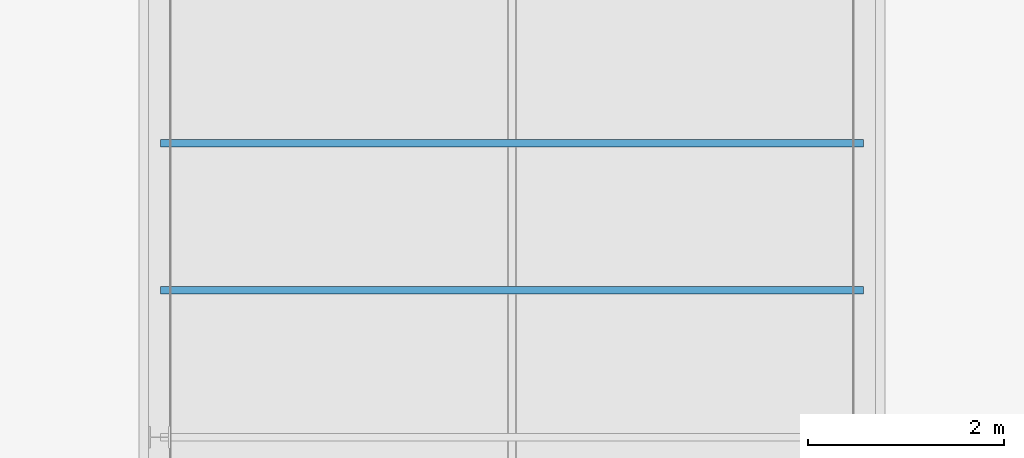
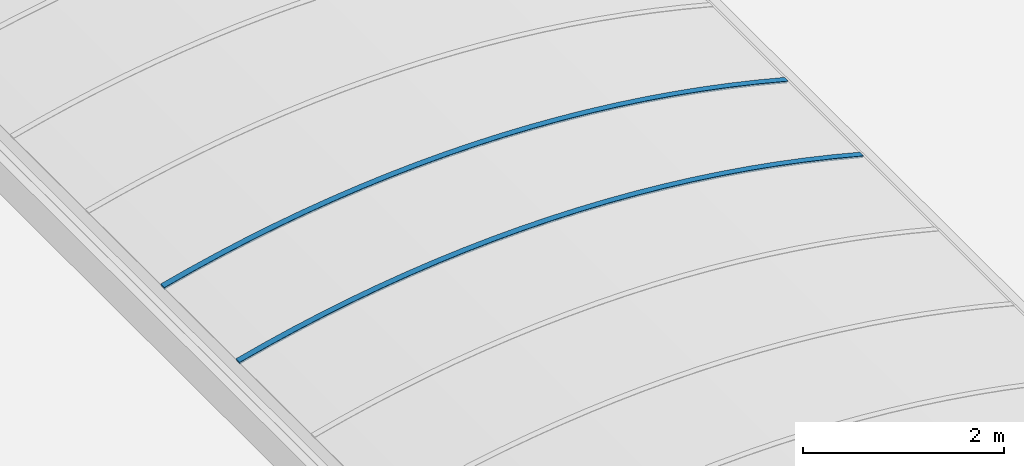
# One storey, part 35 of 81: 2 beams.
"""IFC2X3 building model written with IfcOpenShell, lengths in millimetres."""

import ifcopenshell
import ifcopenshell.guid

model = None  # the IFC model being written
_history = None  # IfcOwnerHistory: only IFC2X3 demands one
_inside = {}  # id of a spatial element -> (the spatial element, [elements in it])
_under = {}  # id of a project, library or spatial element -> (it, [spatial elements below it])
_declared = {}  # id of a project -> (the project, [libraries it declares])
_typed = {}  # id of a type object -> (the type object, [elements of that type])
_made_of = {}  # id of a material, layer set ... -> (it, [elements and type objects made of it])


def new_model(schema):
    """Start an empty IFC model of exactly this schema.

    Asked for "IFC4X3", IfcOpenShell would pick the latest addendum, in which some entities
    have other attributes; the version numbers below select the first issue.
    IFC2X3 requires an IfcOwnerHistory on every rooted entity: one is made here for all.
    """
    global model, _history
    if schema == "IFC4X3":
        model = ifcopenshell.file(schema_version=(4, 3, 0, 0))
    else:
        model = ifcopenshell.file(schema=schema)
    _inside.clear()
    _under.clear()
    _declared.clear()
    _typed.clear()
    _made_of.clear()
    _history = None
    if model.schema == "IFC2X3":
        org = make("IfcOrganization", Name="unknown")
        user = make(
            "IfcPersonAndOrganization",
            ThePerson=make("IfcPerson", FamilyName="unknown"),
            TheOrganization=org,
        )
        app = make(
            "IfcApplication",
            ApplicationDeveloper=org,
            Version="unknown",
            ApplicationFullName="unknown",
            ApplicationIdentifier="unknown",
        )
        _history = make(
            "IfcOwnerHistory",
            OwningUser=user,
            OwningApplication=app,
            ChangeAction="ADDED",
            CreationDate=0,
        )
    return model


def make(cls, **values):
    """One entity of the class cls with the attributes given. An attribute that is None is left unset."""
    return model.create_entity(
        cls, **{name: value for name, value in values.items() if value is not None}
    )


def entity(cls, *values):
    """Any entity or typed value of the class cls, its attributes in the order of the schema. None: left unset."""
    e = model.create_entity(cls)
    for i, value in enumerate(values):
        if value is not None:
            e[i] = value
    return e


def rooted(cls, **values):
    """An entity with a GlobalId (a new one), such as an element, a storey or a relation."""
    return make(cls, GlobalId=ifcopenshell.guid.new(), OwnerHistory=_history, **values)


def si_unit(unit_type, name, prefix=None):
    """IfcSIUnit, for example si_unit("LENGTHUNIT", "METRE", prefix="MILLI")."""
    return make("IfcSIUnit", UnitType=unit_type, Prefix=prefix, Name=name)


def converted_unit(unit_type, name, factor, base, dimensions=None, offset=None):
    """IfcConversionBasedUnit, such as the inch: factor (a typed value) times the base unit."""
    return make(
        "IfcConversionBasedUnit"
        if offset is None
        else "IfcConversionBasedUnitWithOffset",
        ConversionOffset=offset,
        Dimensions=None
        if dimensions is None
        else entity("IfcDimensionalExponents", *dimensions),
        UnitType=unit_type,
        Name=name,
        ConversionFactor=make(
            "IfcMeasureWithUnit", ValueComponent=factor, UnitComponent=base
        ),
    )


def derived_unit(unit_type, elements):
    """IfcDerivedUnit: a product of units, each with its exponent."""
    return make(
        "IfcDerivedUnit",
        Elements=[
            make("IfcDerivedUnitElement", Unit=unit, Exponent=power)
            for unit, power in elements
        ],
        UnitType=unit_type,
    )


def money_unit(currency):
    """IfcMonetaryUnit."""
    return make("IfcMonetaryUnit", Currency=currency)


def assignment(units):
    """IfcUnitAssignment: the units of a project."""
    return None if units is None else make("IfcUnitAssignment", Units=units)


def point(xyz):
    """IfcCartesianPoint."""
    return None if xyz is None else make("IfcCartesianPoint", Coordinates=xyz)


def direction(xyz):
    """IfcDirection."""
    return None if xyz is None else make("IfcDirection", DirectionRatios=xyz)


def frame(location, z_axis=None, x_axis=None):
    """IfcAxis2Placement3D, a coordinate frame: its origin and axes. An axis left out is left unset."""
    return make(
        "IfcAxis2Placement3D",
        Location=point(location),
        Axis=direction(z_axis),
        RefDirection=direction(x_axis),
    )


def origin_with_axes():
    """The frame at (0, 0, 0) with the z axis (0, 0, 1) and the x axis (1, 0, 0) written out."""
    return frame((0.0, 0.0, 0.0), z_axis=(0.0, 0.0, 1.0), x_axis=(1.0, 0.0, 0.0))


def place(relative_to, where):
    """IfcLocalPlacement: puts the frame where relative to a parent placement (None: the world)."""
    return make(
        "IfcLocalPlacement", PlacementRelTo=relative_to, RelativePlacement=where
    )


def context(
    kind, dimensions, precision=None, world=None, true_north=None, identifier=None
):
    """IfcGeometricRepresentationContext, for example the 3D "Model" context."""
    return make(
        "IfcGeometricRepresentationContext",
        ContextIdentifier=identifier,
        ContextType=kind,
        CoordinateSpaceDimension=dimensions,
        Precision=precision,
        WorldCoordinateSystem=world,
        TrueNorth=true_north,
    )


def subcontext(parent, identifier, kind, view, scale=None):
    """IfcGeometricRepresentationSubContext, for example "Body" below "Model"."""
    return make(
        "IfcGeometricRepresentationSubContext",
        ContextIdentifier=identifier,
        ContextType=kind,
        ParentContext=parent,
        TargetScale=scale,
        TargetView=view,
    )


def project(units=None, contexts=None):
    """IfcProject with its units and contexts."""
    return rooted(
        "IfcProject",
        Name="project",
        RepresentationContexts=contexts,
        UnitsInContext=assignment(units),
    )


def spatial(cls, under=None, at=None, **own):
    """A site, building, storey or space (cls), placed at a placement, below another one or the project."""
    s = rooted(cls, ObjectPlacement=at, **own)
    if under is not None:
        _under.setdefault(under.id(), (under, []))[1].append(s)
    return s


def faces_of(points, faces, orient=None, outer=None):
    """IfcFace entities. A face is a list of loops; a loop is a list of indices into points, from 0.

    orient and outer hold one flag for each loop. By default every Orientation is true, the
    first loop of a face is its IfcFaceOuterBound and the others are IfcFaceBound.
    """
    made = []
    for i, loops in enumerate(faces):
        bounds = []
        for j, loop in enumerate(loops):
            is_outer = j == 0 if outer is None else outer[i][j]
            bounds.append(
                make(
                    "IfcFaceOuterBound" if is_outer else "IfcFaceBound",
                    Bound=make("IfcPolyLoop", Polygon=[points[k] for k in loop]),
                    Orientation=True if orient is None else orient[i][j],
                )
            )
        made.append(make("IfcFace", Bounds=bounds))
    return made


def faceted_brep(points, faces, orient=None, outer=None, voids=None):
    """IfcFacetedBrep: a solid bounded by flat faces; with voids (closed shells), ...WithVoids."""
    shared = [point(p) for p in points]
    hull = make("IfcClosedShell", CfsFaces=faces_of(shared, faces, orient, outer))
    if voids is None:
        return make("IfcFacetedBrep", Outer=hull)
    return make(
        "IfcFacetedBrepWithVoids",
        Outer=hull,
        Voids=[
            make(cls, CfsFaces=faces_of(shared, fs, o, b)) for cls, fs, o, b in voids
        ],
    )


def shape(context_of_items, identifier, shape_type, items):
    """IfcShapeRepresentation: the items that make up one representation, for example the "Body"."""
    return make(
        "IfcShapeRepresentation",
        ContextOfItems=context_of_items,
        RepresentationIdentifier=identifier,
        RepresentationType=shape_type,
        Items=items,
    )


def material(Name=None, Category=None):
    """IfcMaterial."""
    return make("IfcMaterial", Name=Name, Category=Category)


def material_list(materials):
    """IfcMaterialList."""
    return make("IfcMaterialList", Materials=materials)


def made_of(thing, what):
    """Note that an element or type object is made of a material, layer set ...; save() writes the relation."""
    if what is not None:
        _made_of.setdefault(what.id(), (what, []))[1].append(thing)
    return thing


def type_object(cls, material=None, **own):
    """A type object (cls), such as IfcWallType, which elements share."""
    return made_of(rooted(cls, **own), material)


def element(
    cls,
    number,
    at=None,
    inside=None,
    cuts=None,
    type_object=None,
    material=None,
    context=None,
    identifier="Body",
    shape_type=None,
    held_by="IfcProductDefinitionShape",
    body=None,
    shapes=None,
    **own,
):
    """One element of the class cls, such as IfcWall. Its Tag is "e" and its number.

    at: its placement. inside: the storey or other place that contains it. cuts: it is an
    opening in that element (IfcRelVoidsElement). A single representation is given by context,
    identifier, shape_type and body (its items); several are given by shapes. held_by: the class
    of the entity that holds the representations. save() writes the other relations.
    """
    e = rooted(cls, Tag="e%d" % number, ObjectPlacement=at, **own)
    if body is not None:
        shapes = [shape(context, identifier, shape_type, body)]
    if shapes is not None:
        e.Representation = make(held_by, Representations=shapes)
    if inside is not None:
        _inside.setdefault(inside.id(), (inside, []))[1].append(e)
    if cuts is not None:
        rooted(
            "IfcRelVoidsElement", RelatingBuildingElement=cuts, RelatedOpeningElement=e
        )
    if type_object is not None:
        _typed.setdefault(type_object.id(), (type_object, []))[1].append(e)
    return made_of(e, material)


def aggregate(whole, parts):
    """IfcRelAggregates: a whole, such as a stair, and the parts it consists of."""
    return rooted("IfcRelAggregates", RelatingObject=whole, RelatedObjects=parts)


def save(model, path):
    """Write the relations noted so far, then the file.

    IfcRelAggregates (storeys below a building ...), IfcRelContainedInSpatialStructure (elements
    in a storey), IfcRelDefinesByType, IfcRelAssociatesMaterial and IfcRelDeclares: one each for
    every whole, place, type object, material and project.
    """
    for whole, parts in _under.values():
        aggregate(whole, parts)
    for where, things in _inside.values():
        rooted(
            "IfcRelContainedInSpatialStructure",
            RelatedElements=things,
            RelatingStructure=where,
        )
    for kind, things in _typed.values():
        rooted("IfcRelDefinesByType", RelatedObjects=things, RelatingType=kind)
    for what, things in _made_of.values():
        rooted("IfcRelAssociatesMaterial", RelatedObjects=things, RelatingMaterial=what)
    for by, libraries in _declared.values():
        rooted("IfcRelDeclares", RelatingContext=by, RelatedDefinitions=libraries)
    model.write(path)


model = new_model("IFC2X3")

# Units and contexts
model_context = context("Model", 3, precision=0.01, world=origin_with_axes(), true_north=direction((0.0, 1.0)))
body_context = subcontext(model_context, "Body", "Model", "MODEL_VIEW")
ifc_project = project(units=[si_unit("LENGTHUNIT", "METRE", prefix="MILLI"), si_unit("AREAUNIT", "SQUARE_METRE"), si_unit("VOLUMEUNIT", "CUBIC_METRE"), converted_unit("PLANEANGLEUNIT", "DEGREE", entity("IfcPlaneAngleMeasure", 0.0174532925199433), si_unit("PLANEANGLEUNIT", "RADIAN"), dimensions=[0, 0, 0, 0, 0, 0, 0]), money_unit("EUR"), converted_unit("TIMEUNIT", "Year", entity("IfcTimeMeasure", 31557600.0), si_unit("TIMEUNIT", "SECOND"), dimensions=[0, 0, 1, 0, 0, 0, 0]), si_unit("MASSUNIT", "GRAM", prefix="KILO"), si_unit("THERMODYNAMICTEMPERATUREUNIT", "DEGREE_CELSIUS"), si_unit("LUMINOUSINTENSITYUNIT", "LUMEN"), si_unit("ENERGYUNIT", "JOULE", prefix="MEGA"), derived_unit("THERMALCONDUCTANCEUNIT", [(si_unit("POWERUNIT", "WATT"), 1), (si_unit("LENGTHUNIT", "METRE"), -1), (si_unit("THERMODYNAMICTEMPERATUREUNIT", "KELVIN"), -1)]), derived_unit("SPECIFICHEATCAPACITYUNIT", [(si_unit("ENERGYUNIT", "JOULE"), 1), (si_unit("MASSUNIT", "GRAM", prefix="KILO"), -1), (si_unit("THERMODYNAMICTEMPERATUREUNIT", "KELVIN"), -1)]), derived_unit("MASSDENSITYUNIT", [(si_unit("MASSUNIT", "GRAM", prefix="KILO"), 1), (si_unit("VOLUMEUNIT", "CUBIC_METRE"), -1)])], contexts=[model_context])

# Site, building, storey
site_placement = place(None, origin_with_axes())
site = spatial("IfcSite", under=ifc_project, at=site_placement, Name="Site", CompositionType="ELEMENT")
building_placement = place(site_placement, origin_with_axes())
building = spatial("IfcBuilding", under=site, at=building_placement, Name="Naam gebouw", CompositionType="ELEMENT")
storey_placement = place(building_placement, frame((0.0, 0.0, 15320.0), z_axis=(0.0, 0.0, 1.0), x_axis=(1.0, 0.0, 0.0)))
storey = spatial("IfcBuildingStorey", under=building, at=storey_placement, Name="01 dak", CompositionType="ELEMENT", Elevation=15320.0)

# Beams
ifc_material = material(Name="Metaal - Aluminium AFW")
ifc_material_list = material_list([ifc_material, ifc_material])
beam_type = type_object("IfcBeamType", Name="lichtstraat polycarbonaat (constructie) 7420 x 670", PredefinedType="BEAM")
beam_1_placement = place(storey_placement, frame((46900.00000000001, 45862.50000000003, 559.9999999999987), z_axis=(0.0, 0.0, 1.0), x_axis=(1.0, 0.0, 0.0)))
element("IfcBeam", 1, at=beam_1_placement, inside=storey, type_object=beam_type, material=ifc_material_list, Name="Plafondafwerking 3", ObjectType="BEAM", context=body_context, shape_type="Brep", body=[
    faceted_brep([(-3532.999999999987, 0.0, 192.1385480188), (-3582.999999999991, 0.0, 179.000000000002), (-3582.999999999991, 75.00000000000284, 179.000000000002), (-3532.999999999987, 75.00000000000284, 192.1385480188), (-3264.746952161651, 0.0, 264.2761146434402), (-3584.237010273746, 0.0, 183.6724462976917), (-3527.999999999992, 0.0, 193.4415530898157), (-3213.322878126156, 0.0, 271.5053933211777), (-2896.922437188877, 0.0, 342.2614189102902), (-2578.968364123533, 0.0, 405.6716830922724), (-2259.631179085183, 0.0, 461.7021786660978), (-1939.082143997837, 0.0, 510.3228562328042), (-1617.493170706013, 0.0, 551.5076403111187), (-1295.036728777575, 0.0, 585.2344433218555), (-971.8857530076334, 0.0, 611.485177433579), (-648.2135506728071, 0.0, 630.2457642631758), (-324.1937085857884, 0.0, 641.5061424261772), (0.0, 0.0, 645.2602729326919), (324.1937085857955, 0.0, 641.5061424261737), (648.2135506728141, 0.0, 630.2457642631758), (971.8857530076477, 0.0, 611.4851774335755), (1295.036728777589, 0.0, 585.2344433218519), (1617.49317070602, 0.0, 551.5076403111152), (1939.082143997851, 0.0, 510.3228562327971), (2259.63117908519, 0.0, 461.7021786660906), (2578.968364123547, 0.0, 405.6716830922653), (2896.922437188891, 0.0, 342.2614189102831), (3213.322878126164, 0.0, 271.5053933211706), (3528.000000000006, 0.0, 193.4415530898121), (3528.000000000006, 0.0, 194.0000000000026), (3533.000000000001, 0.0, 194.0000000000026), (3533.000000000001, 0.0, 192.1385480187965), (3582.999999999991, 0.0, 179.000000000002), (3584.237010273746, 0.0, 183.6724462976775), (3264.746952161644, 0.0, 264.2761146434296), (2943.448443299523, 0.0, 337.3385317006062), (2620.519461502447, 0.0, 402.8192257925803), (2296.138887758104, 0.0, 460.6819250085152), (1970.486407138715, 0.0, 510.8945772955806), (1643.742409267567, 0.0, 553.4293682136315), (1316.087888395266, 0.0, 588.2627363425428), (987.7043431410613, 0.0, 615.3753863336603), (658.7736759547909, 0.0, 634.7522995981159), (329.4780923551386, 0.0, 646.3827426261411), (0.0, 0.0, 650.2602729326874), (-329.4780923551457, 0.0, 646.3827426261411), (-658.7736759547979, 0.0, 634.7522995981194), (-987.7043431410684, 0.0, 615.375386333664), (-1316.087888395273, 0.0, 588.2627363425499), (-1643.742409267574, 0.0, 553.4293682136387), (-1970.486407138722, 0.0, 510.8945772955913), (-2296.138887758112, 0.0, 460.6819250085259), (-2620.519461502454, 0.0, 402.8192257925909), (-2943.44844329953, 0.0, 337.3385317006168), (-3584.237010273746, 75.00000000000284, 183.6724462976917), (-3527.999999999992, 75.00000000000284, 193.4415530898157), (-3264.746952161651, 75.00000000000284, 264.2761146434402), (-2943.44844329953, 75.00000000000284, 337.3385317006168), (-2620.519461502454, 75.00000000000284, 402.8192257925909), (-2296.138887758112, 75.00000000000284, 460.6819250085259), (-1970.486407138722, 75.00000000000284, 510.8945772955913), (-1643.742409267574, 75.00000000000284, 553.4293682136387), (-1316.087888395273, 75.00000000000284, 588.2627363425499), (-987.7043431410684, 75.00000000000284, 615.375386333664), (-658.7736759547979, 75.00000000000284, 634.7522995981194), (-329.4780923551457, 75.00000000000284, 646.3827426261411), (0.0, 75.00000000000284, 650.2602729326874), (329.4780923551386, 75.00000000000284, 646.3827426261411), (658.7736759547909, 75.00000000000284, 634.7522995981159), (987.7043431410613, 75.00000000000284, 615.3753863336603), (1316.087888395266, 75.00000000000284, 588.2627363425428), (1643.742409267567, 75.00000000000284, 553.4293682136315), (1970.486407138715, 75.00000000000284, 510.8945772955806), (2296.138887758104, 75.00000000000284, 460.6819250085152), (2620.519461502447, 75.00000000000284, 402.8192257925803), (2943.448443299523, 75.00000000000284, 337.3385317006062), (3264.746952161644, 75.00000000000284, 264.2761146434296), (3584.237010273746, 75.00000000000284, 183.6724462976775), (3582.999999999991, 75.00000000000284, 179.000000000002), (3533.000000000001, 75.00000000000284, 192.1385480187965), (3533.000000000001, 75.00000000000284, 194.0000000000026), (3528.000000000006, 75.00000000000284, 194.0000000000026), (3528.000000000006, 75.00000000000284, 193.4415530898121), (3213.322878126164, 75.00000000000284, 271.5053933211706), (2896.922437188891, 75.00000000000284, 342.2614189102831), (2578.968364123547, 75.00000000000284, 405.6716830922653), (2259.63117908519, 75.00000000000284, 461.7021786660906), (1939.082143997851, 75.00000000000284, 510.3228562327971), (1617.49317070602, 75.00000000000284, 551.5076403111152), (1295.036728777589, 75.00000000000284, 585.2344433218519), (971.8857530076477, 75.00000000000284, 611.4851774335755), (648.2135506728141, 75.00000000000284, 630.2457642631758), (324.1937085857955, 75.00000000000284, 641.5061424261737), (0.0, 75.00000000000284, 645.2602729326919), (-324.1937085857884, 75.00000000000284, 641.5061424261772), (-648.2135506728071, 75.00000000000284, 630.2457642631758), (-971.8857530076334, 75.00000000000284, 611.485177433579), (-1295.036728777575, 75.00000000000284, 585.2344433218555), (-1617.493170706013, 75.00000000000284, 551.5076403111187), (-1939.082143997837, 75.00000000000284, 510.3228562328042), (-2259.631179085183, 75.00000000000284, 461.7021786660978), (-2578.968364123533, 75.00000000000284, 405.6716830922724), (-2896.922437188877, 75.00000000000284, 342.2614189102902), (-3213.322878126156, 75.00000000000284, 271.5053933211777)], [[[0, 1, 2, 3]], [[4, 5, 1, 0, 6, 7, 8, 9, 10, 11, 12, 13, 14, 15, 16, 17, 18, 19, 20, 21, 22, 23, 24, 25, 26, 27, 28, 29, 30, 31, 32, 33, 34, 35, 36, 37, 38, 39, 40, 41, 42, 43, 44, 45, 46, 47, 48, 49, 50, 51, 52, 53]], [[1, 5, 54, 2]], [[55, 3, 2, 54, 56, 57, 58, 59, 60, 61, 62, 63, 64, 65, 66, 67, 68, 69, 70, 71, 72, 73, 74, 75, 76, 77, 78, 79, 80, 81, 82, 83, 84, 85, 86, 87, 88, 89, 90, 91, 92, 93, 94, 95, 96, 97, 98, 99, 100, 101, 102, 103]], [[6, 0, 3, 55]], [[5, 4, 56, 54]], [[7, 6, 55, 103]], [[8, 7, 103, 102]], [[9, 8, 102, 101]], [[10, 9, 101, 100]], [[11, 10, 100, 99]], [[12, 11, 99, 98]], [[13, 12, 98, 97]], [[14, 13, 97, 96]], [[15, 14, 96, 95]], [[16, 15, 95, 94]], [[17, 16, 94, 93]], [[18, 17, 93, 92]], [[19, 18, 92, 91]], [[20, 19, 91, 90]], [[21, 20, 90, 89]], [[22, 21, 89, 88]], [[23, 22, 88, 87]], [[24, 23, 87, 86]], [[25, 24, 86, 85]], [[26, 25, 85, 84]], [[27, 26, 84, 83]], [[28, 27, 83, 82]], [[29, 28, 82, 81]], [[30, 29, 81, 80]], [[31, 30, 80, 79]], [[32, 31, 79, 78]], [[33, 32, 78, 77]], [[34, 33, 77, 76]], [[35, 34, 76, 75]], [[36, 35, 75, 74]], [[37, 36, 74, 73]], [[38, 37, 73, 72]], [[39, 38, 72, 71]], [[40, 39, 71, 70]], [[41, 40, 70, 69]], [[42, 41, 69, 68]], [[43, 42, 68, 67]], [[44, 43, 67, 66]], [[45, 44, 66, 65]], [[46, 45, 65, 64]], [[47, 46, 64, 63]], [[48, 47, 63, 62]], [[49, 48, 62, 61]], [[50, 49, 61, 60]], [[51, 50, 60, 59]], [[52, 51, 59, 58]], [[53, 52, 58, 57]], [[4, 53, 57, 56]]]),
    faceted_brep([(3269.271727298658, 75.00000000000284, 283.190243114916), (2947.542627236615, 75.00000000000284, 356.4574241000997), (2947.542627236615, 0.0, 356.4574241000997), (3269.271727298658, 0.0, 283.190243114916), (3589.18475202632, 75.00000000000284, 202.3611008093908), (3587.947861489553, 75.00000000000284, 197.6891067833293), (3528.000000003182, 75.00000000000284, 213.4415530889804), (3213.322878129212, 75.00000000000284, 291.505393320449), (2896.922437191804, 75.00000000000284, 362.2614189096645), (2578.968364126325, 75.00000000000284, 425.6716830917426), (2259.631179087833, 75.00000000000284, 481.7021786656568), (1939.082144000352, 75.00000000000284, 530.3228562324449), (1617.493170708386, 75.00000000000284, 571.5076403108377), (1295.036728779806, 75.00000000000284, 605.2344433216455), (971.8857530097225, 75.00000000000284, 631.4851774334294), (648.2135506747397, 75.00000000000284, 650.2457642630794), (324.1937085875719, 75.00000000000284, 661.5061424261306), (1.63424829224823e-09, 75.00000000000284, 665.2602729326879), (-324.1937085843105, 75.00000000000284, 661.5061424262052), (-648.2135506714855, 75.00000000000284, 650.2457642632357), (-971.8857530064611, 75.00000000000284, 631.4851774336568), (-1295.036728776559, 75.00000000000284, 605.2344433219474), (-1617.493170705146, 75.00000000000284, 571.5076403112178), (-1939.082143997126, 75.00000000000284, 530.3228562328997), (-2259.631179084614, 75.00000000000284, 481.7021786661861), (-2578.968364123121, 75.00000000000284, 425.6716830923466), (-2896.922437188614, 75.00000000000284, 362.2614189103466), (-3213.322878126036, 75.00000000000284, 291.5053933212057), (-3528.00000000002, 75.00000000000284, 213.4415530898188), (-3533.000000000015, 75.00000000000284, 212.1385480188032), (-3587.947861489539, 75.00000000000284, 197.6891067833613), (-3589.184752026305, 75.00000000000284, 202.3611008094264), (-3269.271727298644, 75.00000000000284, 283.1902431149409), (-2947.542627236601, 75.00000000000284, 356.4574241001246), (-2624.176171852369, 75.00000000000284, 422.1219439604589), (-2299.351990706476, 75.00000000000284, 480.1473261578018), (-1973.250523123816, 75.00000000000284, 530.5013376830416), (-1646.052917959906, 75.00000000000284, 573.156006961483), (-1317.940932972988, 75.00000000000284, 608.0876393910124), (-989.0968338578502, 75.00000000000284, 635.2768305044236), (-659.7032929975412, 75.00000000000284, 654.7084767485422), (-329.9432879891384, 75.00000000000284, 666.3717838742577), (0.0, 75.00000000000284, 670.2602729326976), (329.9432879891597, 75.00000000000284, 666.3717838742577), (659.7032929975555, 75.00000000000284, 654.7084767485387), (989.0968338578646, 75.00000000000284, 635.2768305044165), (1317.940932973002, 75.00000000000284, 608.0876393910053), (1646.052917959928, 75.00000000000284, 573.1560069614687), (1973.250523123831, 75.00000000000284, 530.5013376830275), (2299.351990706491, 75.00000000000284, 480.147326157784), (2624.176171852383, 75.00000000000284, 422.1219439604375), (2624.176171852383, 0.0, 422.1219439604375), (2299.351990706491, 0.0, 480.147326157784), (1973.250523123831, 0.0, 530.5013376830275), (1646.052917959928, 0.0, 573.1560069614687), (1317.940932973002, 0.0, 608.0876393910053), (989.0968338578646, 0.0, 635.2768305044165), (659.7032929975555, 0.0, 654.7084767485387), (329.9432879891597, 0.0, 666.3717838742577), (0.0, 0.0, 670.2602729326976), (-329.9432879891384, 0.0, 666.3717838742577), (-659.7032929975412, 0.0, 654.7084767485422), (-989.0968338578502, 0.0, 635.2768305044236), (-1317.940932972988, 0.0, 608.0876393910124), (-1646.052917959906, 0.0, 573.156006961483), (-1973.250523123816, 0.0, 530.5013376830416), (-2299.351990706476, 0.0, 480.1473261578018), (-2624.176171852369, 0.0, 422.1219439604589), (-2947.542627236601, 0.0, 356.4574241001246), (-3269.271727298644, 0.0, 283.1902431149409), (-3589.184752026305, 0.0, 202.3611008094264), (-3587.947861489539, 0.0, 197.6891067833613), (-3533.000000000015, 0.0, 212.1385480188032), (-3528.00000000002, 0.0, 213.4415530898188), (-3213.322878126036, 0.0, 291.5053933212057), (-2896.922437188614, 0.0, 362.2614189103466), (-2578.968364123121, 0.0, 425.6716830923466), (-2259.631179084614, 0.0, 481.7021786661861), (-1939.082143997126, 0.0, 530.3228562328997), (-1617.493170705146, 0.0, 571.5076403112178), (-1295.036728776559, 0.0, 605.2344433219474), (-971.8857530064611, 0.0, 631.4851774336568), (-648.2135506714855, 0.0, 650.2457642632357), (-324.1937085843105, 0.0, 661.5061424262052), (1.63424829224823e-09, 0.0, 665.2602729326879), (324.1937085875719, 0.0, 661.5061424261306), (648.2135506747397, 0.0, 650.2457642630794), (971.8857530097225, 0.0, 631.4851774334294), (1295.036728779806, 0.0, 605.2344433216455), (1617.493170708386, 0.0, 571.5076403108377), (1939.082144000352, 0.0, 530.3228562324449), (2259.631179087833, 0.0, 481.7021786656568), (2578.968364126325, 0.0, 425.6716830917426), (2896.922437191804, 0.0, 362.2614189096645), (3213.322878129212, 0.0, 291.505393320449), (3528.000000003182, 0.0, 213.4415530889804), (3587.947861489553, 0.0, 197.6891067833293), (3589.18475202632, 0.0, 202.3611008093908)], [[[0, 1, 2, 3]], [[0, 4, 5, 6, 7, 8, 9, 10, 11, 12, 13, 14, 15, 16, 17, 18, 19, 20, 21, 22, 23, 24, 25, 26, 27, 28, 29, 30, 31, 32, 33, 34, 35, 36, 37, 38, 39, 40, 41, 42, 43, 44, 45, 46, 47, 48, 49, 50, 1]], [[1, 50, 51, 2]], [[3, 2, 51, 52, 53, 54, 55, 56, 57, 58, 59, 60, 61, 62, 63, 64, 65, 66, 67, 68, 69, 70, 71, 72, 73, 74, 75, 76, 77, 78, 79, 80, 81, 82, 83, 84, 85, 86, 87, 88, 89, 90, 91, 92, 93, 94, 95, 96, 97]], [[4, 0, 3, 97]], [[5, 4, 97, 96]], [[6, 5, 96, 95]], [[7, 6, 95, 94]], [[8, 7, 94, 93]], [[9, 8, 93, 92]], [[10, 9, 92, 91]], [[11, 10, 91, 90]], [[12, 11, 90, 89]], [[13, 12, 89, 88]], [[14, 13, 88, 87]], [[15, 14, 87, 86]], [[16, 15, 86, 85]], [[17, 16, 85, 84]], [[18, 17, 84, 83]], [[19, 18, 83, 82]], [[20, 19, 82, 81]], [[21, 20, 81, 80]], [[22, 21, 80, 79]], [[23, 22, 79, 78]], [[24, 23, 78, 77]], [[25, 24, 77, 76]], [[26, 25, 76, 75]], [[27, 26, 75, 74]], [[28, 27, 74, 73]], [[29, 28, 73, 72]], [[30, 29, 72, 71]], [[31, 30, 71, 70]], [[32, 31, 70, 69]], [[33, 32, 69, 68]], [[34, 33, 68, 67]], [[35, 34, 67, 66]], [[36, 35, 66, 65]], [[37, 36, 65, 64]], [[38, 37, 64, 63]], [[39, 38, 63, 62]], [[40, 39, 62, 61]], [[41, 40, 61, 60]], [[42, 41, 60, 59]], [[43, 42, 59, 58]], [[44, 43, 58, 57]], [[45, 44, 57, 56]], [[46, 45, 56, 55]], [[47, 46, 55, 54]], [[48, 47, 54, 53]], [[49, 48, 53, 52]], [[50, 49, 52, 51]]]),
])
beam_2_placement = place(storey_placement, frame((46900.00000000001, 47362.50000000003, 559.9999999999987), z_axis=(0.0, 0.0, 1.0), x_axis=(1.0, 0.0, 0.0)))
element("IfcBeam", 2, at=beam_2_placement, inside=storey, type_object=beam_type, material=ifc_material_list, Name="Plafondafwerking 3", ObjectType="BEAM", context=body_context, shape_type="Brep", body=[
    faceted_brep([(-3532.999999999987, 0.0, 192.1385480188), (-3582.999999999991, 0.0, 179.000000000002), (-3582.999999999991, 75.00000000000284, 179.000000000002), (-3532.999999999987, 75.00000000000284, 192.1385480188), (-3264.746952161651, 0.0, 264.2761146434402), (-3584.237010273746, 0.0, 183.6724462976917), (-3527.999999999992, 0.0, 193.4415530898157), (-3213.322878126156, 0.0, 271.5053933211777), (-2896.922437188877, 0.0, 342.2614189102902), (-2578.968364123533, 0.0, 405.6716830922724), (-2259.631179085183, 0.0, 461.7021786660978), (-1939.082143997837, 0.0, 510.3228562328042), (-1617.493170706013, 0.0, 551.5076403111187), (-1295.036728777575, 0.0, 585.2344433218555), (-971.8857530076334, 0.0, 611.485177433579), (-648.2135506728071, 0.0, 630.2457642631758), (-324.1937085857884, 0.0, 641.5061424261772), (0.0, 0.0, 645.2602729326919), (324.1937085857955, 0.0, 641.5061424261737), (648.2135506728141, 0.0, 630.2457642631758), (971.8857530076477, 0.0, 611.4851774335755), (1295.036728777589, 0.0, 585.2344433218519), (1617.49317070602, 0.0, 551.5076403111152), (1939.082143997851, 0.0, 510.3228562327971), (2259.63117908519, 0.0, 461.7021786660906), (2578.968364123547, 0.0, 405.6716830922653), (2896.922437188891, 0.0, 342.2614189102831), (3213.322878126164, 0.0, 271.5053933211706), (3528.000000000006, 0.0, 193.4415530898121), (3528.000000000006, 0.0, 194.0000000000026), (3533.000000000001, 0.0, 194.0000000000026), (3533.000000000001, 0.0, 192.1385480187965), (3582.999999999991, 0.0, 179.000000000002), (3584.237010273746, 0.0, 183.6724462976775), (3264.746952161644, 0.0, 264.2761146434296), (2943.448443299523, 0.0, 337.3385317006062), (2620.519461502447, 0.0, 402.8192257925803), (2296.138887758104, 0.0, 460.6819250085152), (1970.486407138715, 0.0, 510.8945772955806), (1643.742409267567, 0.0, 553.4293682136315), (1316.087888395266, 0.0, 588.2627363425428), (987.7043431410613, 0.0, 615.3753863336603), (658.7736759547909, 0.0, 634.7522995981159), (329.4780923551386, 0.0, 646.3827426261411), (0.0, 0.0, 650.2602729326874), (-329.4780923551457, 0.0, 646.3827426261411), (-658.7736759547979, 0.0, 634.7522995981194), (-987.7043431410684, 0.0, 615.375386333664), (-1316.087888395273, 0.0, 588.2627363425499), (-1643.742409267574, 0.0, 553.4293682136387), (-1970.486407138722, 0.0, 510.8945772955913), (-2296.138887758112, 0.0, 460.6819250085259), (-2620.519461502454, 0.0, 402.8192257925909), (-2943.44844329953, 0.0, 337.3385317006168), (-3584.237010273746, 75.00000000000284, 183.6724462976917), (-3527.999999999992, 75.00000000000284, 193.4415530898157), (-3264.746952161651, 75.00000000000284, 264.2761146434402), (-2943.44844329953, 75.00000000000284, 337.3385317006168), (-2620.519461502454, 75.00000000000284, 402.8192257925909), (-2296.138887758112, 75.00000000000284, 460.6819250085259), (-1970.486407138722, 75.00000000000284, 510.8945772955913), (-1643.742409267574, 75.00000000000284, 553.4293682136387), (-1316.087888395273, 75.00000000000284, 588.2627363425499), (-987.7043431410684, 75.00000000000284, 615.375386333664), (-658.7736759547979, 75.00000000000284, 634.7522995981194), (-329.4780923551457, 75.00000000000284, 646.3827426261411), (0.0, 75.00000000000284, 650.2602729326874), (329.4780923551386, 75.00000000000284, 646.3827426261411), (658.7736759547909, 75.00000000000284, 634.7522995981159), (987.7043431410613, 75.00000000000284, 615.3753863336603), (1316.087888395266, 75.00000000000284, 588.2627363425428), (1643.742409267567, 75.00000000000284, 553.4293682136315), (1970.486407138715, 75.00000000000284, 510.8945772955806), (2296.138887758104, 75.00000000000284, 460.6819250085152), (2620.519461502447, 75.00000000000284, 402.8192257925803), (2943.448443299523, 75.00000000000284, 337.3385317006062), (3264.746952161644, 75.00000000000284, 264.2761146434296), (3584.237010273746, 75.00000000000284, 183.6724462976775), (3582.999999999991, 75.00000000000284, 179.000000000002), (3533.000000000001, 75.00000000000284, 192.1385480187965), (3533.000000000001, 75.00000000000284, 194.0000000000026), (3528.000000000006, 75.00000000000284, 194.0000000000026), (3528.000000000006, 75.00000000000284, 193.4415530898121), (3213.322878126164, 75.00000000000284, 271.5053933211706), (2896.922437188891, 75.00000000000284, 342.2614189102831), (2578.968364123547, 75.00000000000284, 405.6716830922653), (2259.63117908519, 75.00000000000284, 461.7021786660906), (1939.082143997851, 75.00000000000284, 510.3228562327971), (1617.49317070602, 75.00000000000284, 551.5076403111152), (1295.036728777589, 75.00000000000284, 585.2344433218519), (971.8857530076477, 75.00000000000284, 611.4851774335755), (648.2135506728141, 75.00000000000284, 630.2457642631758), (324.1937085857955, 75.00000000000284, 641.5061424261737), (0.0, 75.00000000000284, 645.2602729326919), (-324.1937085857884, 75.00000000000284, 641.5061424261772), (-648.2135506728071, 75.00000000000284, 630.2457642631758), (-971.8857530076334, 75.00000000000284, 611.485177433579), (-1295.036728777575, 75.00000000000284, 585.2344433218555), (-1617.493170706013, 75.00000000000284, 551.5076403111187), (-1939.082143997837, 75.00000000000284, 510.3228562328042), (-2259.631179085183, 75.00000000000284, 461.7021786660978), (-2578.968364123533, 75.00000000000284, 405.6716830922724), (-2896.922437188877, 75.00000000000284, 342.2614189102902), (-3213.322878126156, 75.00000000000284, 271.5053933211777)], [[[0, 1, 2, 3]], [[4, 5, 1, 0, 6, 7, 8, 9, 10, 11, 12, 13, 14, 15, 16, 17, 18, 19, 20, 21, 22, 23, 24, 25, 26, 27, 28, 29, 30, 31, 32, 33, 34, 35, 36, 37, 38, 39, 40, 41, 42, 43, 44, 45, 46, 47, 48, 49, 50, 51, 52, 53]], [[1, 5, 54, 2]], [[55, 3, 2, 54, 56, 57, 58, 59, 60, 61, 62, 63, 64, 65, 66, 67, 68, 69, 70, 71, 72, 73, 74, 75, 76, 77, 78, 79, 80, 81, 82, 83, 84, 85, 86, 87, 88, 89, 90, 91, 92, 93, 94, 95, 96, 97, 98, 99, 100, 101, 102, 103]], [[6, 0, 3, 55]], [[5, 4, 56, 54]], [[7, 6, 55, 103]], [[8, 7, 103, 102]], [[9, 8, 102, 101]], [[10, 9, 101, 100]], [[11, 10, 100, 99]], [[12, 11, 99, 98]], [[13, 12, 98, 97]], [[14, 13, 97, 96]], [[15, 14, 96, 95]], [[16, 15, 95, 94]], [[17, 16, 94, 93]], [[18, 17, 93, 92]], [[19, 18, 92, 91]], [[20, 19, 91, 90]], [[21, 20, 90, 89]], [[22, 21, 89, 88]], [[23, 22, 88, 87]], [[24, 23, 87, 86]], [[25, 24, 86, 85]], [[26, 25, 85, 84]], [[27, 26, 84, 83]], [[28, 27, 83, 82]], [[29, 28, 82, 81]], [[30, 29, 81, 80]], [[31, 30, 80, 79]], [[32, 31, 79, 78]], [[33, 32, 78, 77]], [[34, 33, 77, 76]], [[35, 34, 76, 75]], [[36, 35, 75, 74]], [[37, 36, 74, 73]], [[38, 37, 73, 72]], [[39, 38, 72, 71]], [[40, 39, 71, 70]], [[41, 40, 70, 69]], [[42, 41, 69, 68]], [[43, 42, 68, 67]], [[44, 43, 67, 66]], [[45, 44, 66, 65]], [[46, 45, 65, 64]], [[47, 46, 64, 63]], [[48, 47, 63, 62]], [[49, 48, 62, 61]], [[50, 49, 61, 60]], [[51, 50, 60, 59]], [[52, 51, 59, 58]], [[53, 52, 58, 57]], [[4, 53, 57, 56]]]),
    faceted_brep([(3269.271727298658, 75.00000000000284, 283.190243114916), (2947.542627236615, 75.00000000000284, 356.4574241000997), (2947.542627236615, 0.0, 356.4574241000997), (3269.271727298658, 0.0, 283.190243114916), (3589.18475202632, 75.00000000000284, 202.3611008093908), (3587.947861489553, 75.00000000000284, 197.6891067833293), (3528.000000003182, 75.00000000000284, 213.4415530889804), (3213.322878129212, 75.00000000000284, 291.505393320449), (2896.922437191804, 75.00000000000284, 362.2614189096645), (2578.968364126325, 75.00000000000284, 425.6716830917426), (2259.631179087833, 75.00000000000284, 481.7021786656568), (1939.082144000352, 75.00000000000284, 530.3228562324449), (1617.493170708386, 75.00000000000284, 571.5076403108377), (1295.036728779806, 75.00000000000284, 605.2344433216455), (971.8857530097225, 75.00000000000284, 631.4851774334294), (648.2135506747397, 75.00000000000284, 650.2457642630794), (324.1937085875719, 75.00000000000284, 661.5061424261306), (1.63424829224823e-09, 75.00000000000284, 665.2602729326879), (-324.1937085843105, 75.00000000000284, 661.5061424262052), (-648.2135506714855, 75.00000000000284, 650.2457642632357), (-971.8857530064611, 75.00000000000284, 631.4851774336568), (-1295.036728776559, 75.00000000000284, 605.2344433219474), (-1617.493170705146, 75.00000000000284, 571.5076403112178), (-1939.082143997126, 75.00000000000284, 530.3228562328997), (-2259.631179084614, 75.00000000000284, 481.7021786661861), (-2578.968364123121, 75.00000000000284, 425.6716830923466), (-2896.922437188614, 75.00000000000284, 362.2614189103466), (-3213.322878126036, 75.00000000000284, 291.5053933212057), (-3528.00000000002, 75.00000000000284, 213.4415530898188), (-3533.000000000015, 75.00000000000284, 212.1385480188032), (-3587.947861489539, 75.00000000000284, 197.6891067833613), (-3589.184752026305, 75.00000000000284, 202.3611008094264), (-3269.271727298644, 75.00000000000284, 283.1902431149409), (-2947.542627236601, 75.00000000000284, 356.4574241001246), (-2624.176171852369, 75.00000000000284, 422.1219439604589), (-2299.351990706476, 75.00000000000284, 480.1473261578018), (-1973.250523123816, 75.00000000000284, 530.5013376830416), (-1646.052917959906, 75.00000000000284, 573.156006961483), (-1317.940932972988, 75.00000000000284, 608.0876393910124), (-989.0968338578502, 75.00000000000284, 635.2768305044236), (-659.7032929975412, 75.00000000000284, 654.7084767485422), (-329.9432879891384, 75.00000000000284, 666.3717838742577), (0.0, 75.00000000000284, 670.2602729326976), (329.9432879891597, 75.00000000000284, 666.3717838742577), (659.7032929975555, 75.00000000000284, 654.7084767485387), (989.0968338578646, 75.00000000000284, 635.2768305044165), (1317.940932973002, 75.00000000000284, 608.0876393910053), (1646.052917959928, 75.00000000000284, 573.1560069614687), (1973.250523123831, 75.00000000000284, 530.5013376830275), (2299.351990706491, 75.00000000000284, 480.147326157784), (2624.176171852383, 75.00000000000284, 422.1219439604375), (2624.176171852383, 0.0, 422.1219439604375), (2299.351990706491, 0.0, 480.147326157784), (1973.250523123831, 0.0, 530.5013376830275), (1646.052917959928, 0.0, 573.1560069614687), (1317.940932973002, 0.0, 608.0876393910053), (989.0968338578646, 0.0, 635.2768305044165), (659.7032929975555, 0.0, 654.7084767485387), (329.9432879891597, 0.0, 666.3717838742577), (0.0, 0.0, 670.2602729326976), (-329.9432879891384, 0.0, 666.3717838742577), (-659.7032929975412, 0.0, 654.7084767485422), (-989.0968338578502, 0.0, 635.2768305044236), (-1317.940932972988, 0.0, 608.0876393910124), (-1646.052917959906, 0.0, 573.156006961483), (-1973.250523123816, 0.0, 530.5013376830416), (-2299.351990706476, 0.0, 480.1473261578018), (-2624.176171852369, 0.0, 422.1219439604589), (-2947.542627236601, 0.0, 356.4574241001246), (-3269.271727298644, 0.0, 283.1902431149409), (-3589.184752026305, 0.0, 202.3611008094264), (-3587.947861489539, 0.0, 197.6891067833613), (-3533.000000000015, 0.0, 212.1385480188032), (-3528.00000000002, 0.0, 213.4415530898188), (-3213.322878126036, 0.0, 291.5053933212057), (-2896.922437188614, 0.0, 362.2614189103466), (-2578.968364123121, 0.0, 425.6716830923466), (-2259.631179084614, 0.0, 481.7021786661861), (-1939.082143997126, 0.0, 530.3228562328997), (-1617.493170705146, 0.0, 571.5076403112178), (-1295.036728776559, 0.0, 605.2344433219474), (-971.8857530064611, 0.0, 631.4851774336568), (-648.2135506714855, 0.0, 650.2457642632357), (-324.1937085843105, 0.0, 661.5061424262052), (1.63424829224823e-09, 0.0, 665.2602729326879), (324.1937085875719, 0.0, 661.5061424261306), (648.2135506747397, 0.0, 650.2457642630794), (971.8857530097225, 0.0, 631.4851774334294), (1295.036728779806, 0.0, 605.2344433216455), (1617.493170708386, 0.0, 571.5076403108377), (1939.082144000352, 0.0, 530.3228562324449), (2259.631179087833, 0.0, 481.7021786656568), (2578.968364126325, 0.0, 425.6716830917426), (2896.922437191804, 0.0, 362.2614189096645), (3213.322878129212, 0.0, 291.505393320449), (3528.000000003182, 0.0, 213.4415530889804), (3587.947861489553, 0.0, 197.6891067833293), (3589.18475202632, 0.0, 202.3611008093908)], [[[0, 1, 2, 3]], [[0, 4, 5, 6, 7, 8, 9, 10, 11, 12, 13, 14, 15, 16, 17, 18, 19, 20, 21, 22, 23, 24, 25, 26, 27, 28, 29, 30, 31, 32, 33, 34, 35, 36, 37, 38, 39, 40, 41, 42, 43, 44, 45, 46, 47, 48, 49, 50, 1]], [[1, 50, 51, 2]], [[3, 2, 51, 52, 53, 54, 55, 56, 57, 58, 59, 60, 61, 62, 63, 64, 65, 66, 67, 68, 69, 70, 71, 72, 73, 74, 75, 76, 77, 78, 79, 80, 81, 82, 83, 84, 85, 86, 87, 88, 89, 90, 91, 92, 93, 94, 95, 96, 97]], [[4, 0, 3, 97]], [[5, 4, 97, 96]], [[6, 5, 96, 95]], [[7, 6, 95, 94]], [[8, 7, 94, 93]], [[9, 8, 93, 92]], [[10, 9, 92, 91]], [[11, 10, 91, 90]], [[12, 11, 90, 89]], [[13, 12, 89, 88]], [[14, 13, 88, 87]], [[15, 14, 87, 86]], [[16, 15, 86, 85]], [[17, 16, 85, 84]], [[18, 17, 84, 83]], [[19, 18, 83, 82]], [[20, 19, 82, 81]], [[21, 20, 81, 80]], [[22, 21, 80, 79]], [[23, 22, 79, 78]], [[24, 23, 78, 77]], [[25, 24, 77, 76]], [[26, 25, 76, 75]], [[27, 26, 75, 74]], [[28, 27, 74, 73]], [[29, 28, 73, 72]], [[30, 29, 72, 71]], [[31, 30, 71, 70]], [[32, 31, 70, 69]], [[33, 32, 69, 68]], [[34, 33, 68, 67]], [[35, 34, 67, 66]], [[36, 35, 66, 65]], [[37, 36, 65, 64]], [[38, 37, 64, 63]], [[39, 38, 63, 62]], [[40, 39, 62, 61]], [[41, 40, 61, 60]], [[42, 41, 60, 59]], [[43, 42, 59, 58]], [[44, 43, 58, 57]], [[45, 44, 57, 56]], [[46, 45, 56, 55]], [[47, 46, 55, 54]], [[48, 47, 54, 53]], [[49, 48, 53, 52]], [[50, 49, 52, 51]]]),
])

save(model, "model.ifc")
